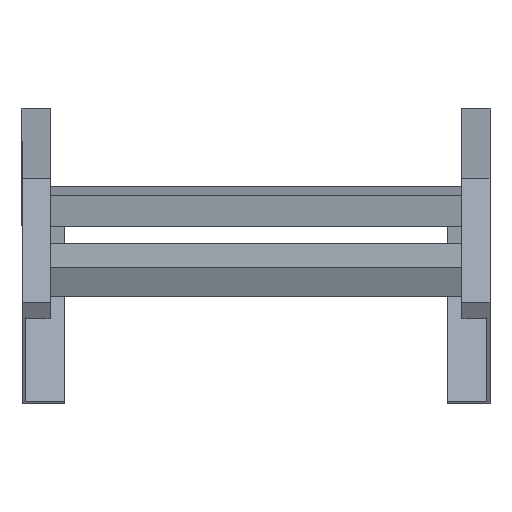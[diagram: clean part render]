
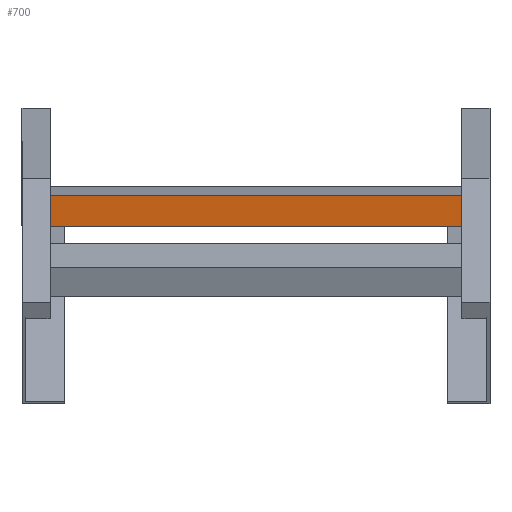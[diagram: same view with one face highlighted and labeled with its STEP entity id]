
A CAD part, top view. The second image highlights one B-rep face of the part: STEP entity #700.
In plain terms, the highlighted planar face has unit normal (0, -0.131, 0.991) as drawn and (0, 0, 1) by its records, which use the part's own axes.
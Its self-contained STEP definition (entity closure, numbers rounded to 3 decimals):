
#7 = EDGE_CURVE ( 'NONE', #337, #418, #1321, .T. ) ;
#11 = ORIENTED_EDGE ( 'NONE', *, *, #1197, .F. ) ;
#102 = DIRECTION ( 'NONE',  ( 0., 0., -1. ) ) ;
#130 = DIRECTION ( 'NONE',  ( -1., 0., 0. ) ) ;
#170 = CARTESIAN_POINT ( 'NONE',  ( 148., 20., 20.25 ) ) ;
#180 = VERTEX_POINT ( 'NONE', #1484 ) ;
#210 = FACE_OUTER_BOUND ( 'NONE', #1021, .T. ) ;
#337 = VERTEX_POINT ( 'NONE', #797 ) ;
#342 = VECTOR ( 'NONE', #395, 1000. ) ;
#343 = ORIENTED_EDGE ( 'NONE', *, *, #659, .T. ) ;
#395 = DIRECTION ( 'NONE',  ( 0., -1., 0. ) ) ;
#413 = DIRECTION ( 'NONE',  ( 0., 1., 0. ) ) ;
#418 = VERTEX_POINT ( 'NONE', #1498 ) ;
#512 = EDGE_CURVE ( 'NONE', #851, #180, #958, .T. ) ;
#540 = VECTOR ( 'NONE', #779, 1000. ) ;
#576 = LINE ( 'NONE', #699, #848 ) ;
#619 = CARTESIAN_POINT ( 'NONE',  ( -148., 20., 20.25 ) ) ;
#659 = EDGE_CURVE ( 'NONE', #337, #851, #669, .T. ) ;
#669 = LINE ( 'NONE', #1477, #540 ) ;
#675 = PLANE ( 'NONE',  #726 ) ;
#699 = CARTESIAN_POINT ( 'NONE',  ( 148., 0., 20.25 ) ) ;
#700 = ADVANCED_FACE ( 'NONE', ( #210 ), #675, .F. ) ;
#726 = AXIS2_PLACEMENT_3D ( 'NONE', #1130, #102, #413 ) ;
#740 = ORIENTED_EDGE ( 'NONE', *, *, #7, .F. ) ;
#779 = DIRECTION ( 'NONE',  ( -1., 0., 0. ) ) ;
#797 = CARTESIAN_POINT ( 'NONE',  ( 148., 20., 20.25 ) ) ;
#848 = VECTOR ( 'NONE', #130, 1000. ) ;
#851 = VERTEX_POINT ( 'NONE', #619 ) ;
#860 = CARTESIAN_POINT ( 'NONE',  ( -148., 20., 20.25 ) ) ;
#958 = LINE ( 'NONE', #860, #342 ) ;
#1021 = EDGE_LOOP ( 'NONE', ( #1240, #11, #740, #343 ) ) ;
#1032 = VECTOR ( 'NONE', #1311, 1000. ) ;
#1130 = CARTESIAN_POINT ( 'NONE',  ( 148., 20., 20.25 ) ) ;
#1197 = EDGE_CURVE ( 'NONE', #418, #180, #576, .T. ) ;
#1240 = ORIENTED_EDGE ( 'NONE', *, *, #512, .T. ) ;
#1311 = DIRECTION ( 'NONE',  ( 0., -1., 0. ) ) ;
#1321 = LINE ( 'NONE', #170, #1032 ) ;
#1477 = CARTESIAN_POINT ( 'NONE',  ( 148., 20., 20.25 ) ) ;
#1484 = CARTESIAN_POINT ( 'NONE',  ( -148., 0., 20.25 ) ) ;
#1498 = CARTESIAN_POINT ( 'NONE',  ( 148., 0., 20.25 ) ) ;
